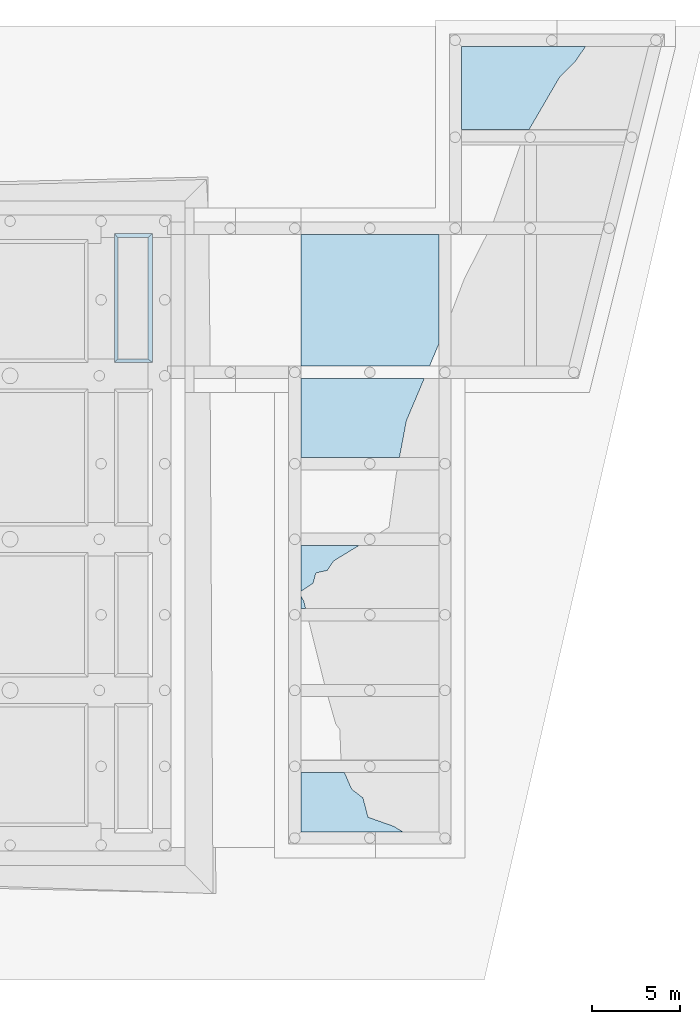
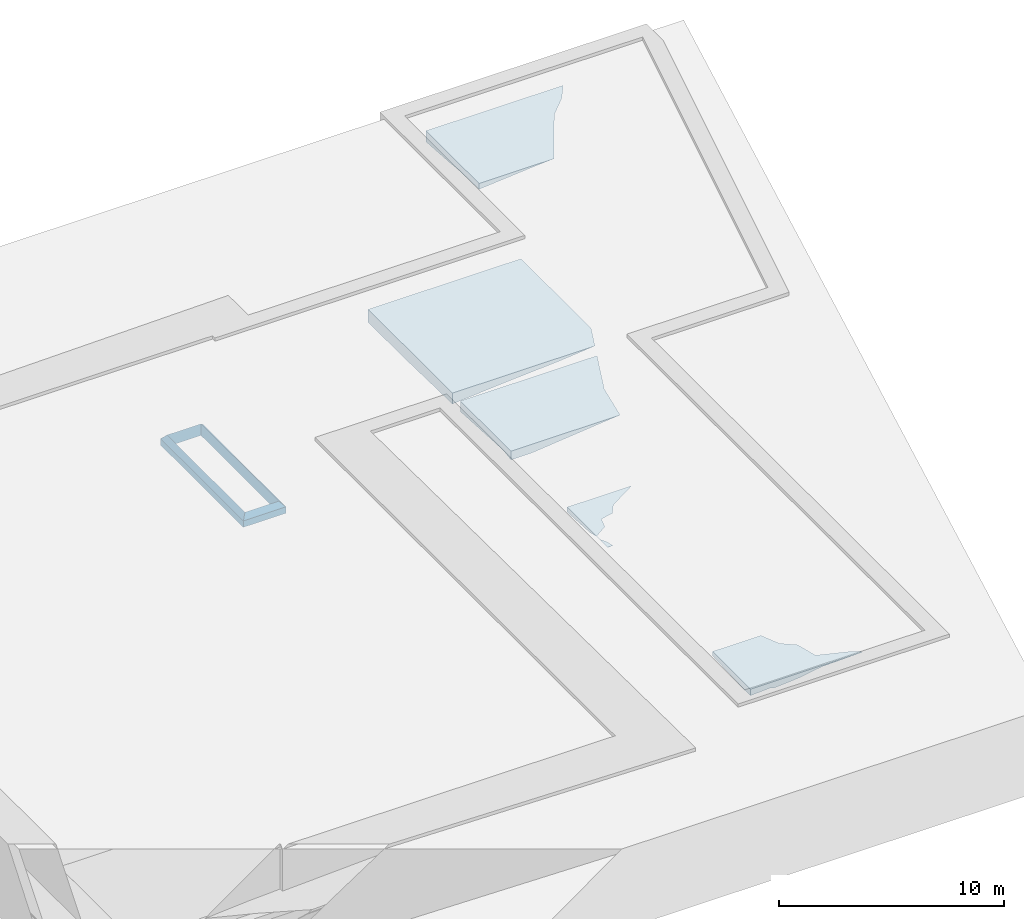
# One storey, part 6 of 7: 6 slabs.
"""IFC2X3 building model written with IfcOpenShell, lengths in millimetres."""

from ifc_helpers import new_model, entity, si_unit, converted_unit, derived_unit, money_unit, direction, frame, origin_with_axes, place, context, subcontext, project, spatial, polyline, outline, extrude, boolean, faceted_brep, material, layer, layer_set, layer_usage, type_object, element, save


model = new_model("IFC2X3")

# Units and contexts
model_context = context("Model", 3, precision=0.01, world=origin_with_axes(), true_north=direction((0.0, 1.0)))
body_context = subcontext(model_context, "Body", "Model", "MODEL_VIEW")
ifc_project = project(units=[si_unit("LENGTHUNIT", "METRE", prefix="MILLI"), si_unit("AREAUNIT", "SQUARE_METRE"), si_unit("VOLUMEUNIT", "CUBIC_METRE"), converted_unit("PLANEANGLEUNIT", "DEGREE", entity("IfcPlaneAngleMeasure", 0.0174532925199), si_unit("PLANEANGLEUNIT", "RADIAN"), dimensions=[0, 0, 0, 0, 0, 0, 0]), money_unit("USD"), converted_unit("TIMEUNIT", "Year", entity("IfcTimeMeasure", 31556926.0), si_unit("TIMEUNIT", "SECOND"), dimensions=[0, 0, 1, 0, 0, 0, 0]), si_unit("MASSUNIT", "GRAM", prefix="KILO"), si_unit("THERMODYNAMICTEMPERATUREUNIT", "DEGREE_CELSIUS"), si_unit("LUMINOUSINTENSITYUNIT", "LUMEN"), si_unit("ENERGYUNIT", "JOULE", prefix="MEGA"), derived_unit("THERMALCONDUCTANCEUNIT", [(si_unit("POWERUNIT", "WATT"), 1), (si_unit("LENGTHUNIT", "METRE"), -1), (si_unit("THERMODYNAMICTEMPERATUREUNIT", "KELVIN"), -1)]), derived_unit("SPECIFICHEATCAPACITYUNIT", [(si_unit("ENERGYUNIT", "JOULE"), 1), (si_unit("MASSUNIT", "GRAM", prefix="KILO"), -1), (si_unit("THERMODYNAMICTEMPERATUREUNIT", "KELVIN"), -1)]), derived_unit("MASSDENSITYUNIT", [(si_unit("MASSUNIT", "GRAM", prefix="KILO"), 1), (si_unit("VOLUMEUNIT", "CUBIC_METRE"), -1)])], contexts=[model_context])

# Site, building, storey
site_placement = place(None, frame((9669.71692459, 4224.13032188, 0.0), z_axis=(0.0, 0.0, 1.0), x_axis=(1.0, 0.0, 0.0)))
site = spatial("IfcSite", under=ifc_project, at=site_placement, Name="Exteriér", CompositionType="ELEMENT")
building_placement = place(site_placement, origin_with_axes())
building = spatial("IfcBuilding", under=site, at=building_placement, Name="Budova", CompositionType="ELEMENT")
storey_placement = place(building_placement, frame((0.0, 0.0, -5000.0), z_axis=(0.0, 0.0, 1.0), x_axis=(1.0, 0.0, 0.0)))
storey = spatial("IfcBuildingStorey", under=building, at=storey_placement, Name="Základy", CompositionType="ELEMENT", Elevation=-5000.0)

# Slabs
ifc_material = material(Name="Hutněný násyp")
ifc_layer_1 = layer(ifc_material, 700.0, ventilated="UNKNOWN")
ifc_layer_set_1 = layer_set([ifc_layer_1], Name="Hutněný násyp 700")
ifc_layer_usage_1 = layer_usage(ifc_layer_set_1, "AXIS3", "NEGATIVE", 700.0)
slab_type_1 = type_object("IfcSlabType", Name="Hutněný násyp 700", PredefinedType="FLOOR")
slab_1_placement = place(storey_placement, frame((20554.7371319, -3560.94750072, 3790.0), z_axis=(0.0, 0.0, 1.0), x_axis=(1.0, 0.0, 0.0)))
element("IfcSlab", 1, at=slab_1_placement, inside=storey, type_object=slab_type_1, material=ifc_layer_usage_1, Name="Zásyp", PredefinedType="FLOOR", context=body_context, shape_type="CSG", body=[
    boolean("DIFFERENCE", extrude(outline(polyline([(0.0, 0.0), (7850.00000008, 0.0), (7850.00000008, 3400.0), (0.0, 3400.0), (0.0, 0.0)])), origin_with_axes(), (0.0, 0.0, 1.0), 700.0), faceted_brep([(3820.4746514, 834.324613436, 700.0), (5282.95128354, 318.040342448, 700.0), (5799.66962946, -3.99813515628e-09, 700.0), (7850.00000008, 0.0, 700.0), (7850.00000008, 3400.0, 700.0), (0.0, 3400.0, 700.0), (0.0, 3375.00000031, 700.0), (2478.88170014, 3375.00000031, 700.0), (2888.77202381, 2430.94495618, 700.0), (3532.8191082, 1934.97727786, 700.0), (3660.96996895, 0.0, 635.450321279), (4947.87077802, -3.99813515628e-09, 668.376422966), (1013.7122126, 0.0, 406.733283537), (0.0, 0.0, 348.768729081), (0.0, 0.0, 0.0), (7850.00000008, 0.0, 0.0), (2513.63443761, 0.0, 439.293305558), (1181.28174519, 0.0, 340.945370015), (7850.00000008, 3400.0, 0.0), (0.0, 3400.0, 0.0), (0.0, 3375.00000031, 459.611769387), (0.0, 654.2553224, 346.076544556), (0.0, 3117.03791397, 450.074618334), (92.9736672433, 3375.00000031, 464.899345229), (430.703672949, 3375.00000031, 479.180784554), (607.315791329, 849.438277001, 380.0)], [[[0, 1, 2, 3, 4, 5, 6, 7, 8, 9]], [[1, 0, 10, 11]], [[11, 2, 1]], [[12, 13, 14, 15, 3, 2, 11, 10, 16, 17]], [[3, 15, 18, 4]], [[4, 18, 19, 5]], [[20, 6, 5, 19, 14, 13, 21, 22]], [[7, 6, 20, 23, 24]], [[8, 7, 24, 25]], [[9, 8, 25, 17, 16]], [[0, 9, 16, 10]], [[13, 12, 25, 21]], [[15, 14, 19, 18]], [[12, 17, 25]], [[22, 21, 25, 24, 23]], [[20, 22, 23]]])),
])
ifc_layer_usage_2 = layer_usage(ifc_layer_set_1, "AXIS3", "NEGATIVE", 700.0)
slab_2_placement = place(storey_placement, frame((29704.737132, 36389.0524993, 3790.0), z_axis=(0.0, 0.0, 1.0), x_axis=(1.0, 0.0, 0.0)))
element("IfcSlab", 2, at=slab_2_placement, inside=storey, type_object=slab_type_1, material=ifc_layer_usage_2, Name="Zásyp", PredefinedType="FLOOR", context=body_context, shape_type="CSG", body=[
    boolean("DIFFERENCE", extrude(outline(polyline([(0.0, 0.0), (9449.26156188, 0.0), (10633.2202665, 4750.00091402), (0.0, 4750.00091402), (0.0, 0.0)])), origin_with_axes(), (0.0, 0.0, 1.0), 700.0), faceted_brep([(1022.70520104, 4750.00091402, 229.098920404), (5497.2128624, 4750.00091402, 563.852404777), (7048.96784384, 4750.00091402, 700.0), (10633.2202665, 4750.00091402, 700.0), (10633.2202665, 4750.00091402, 0.0), (0.0, 4750.00091402, 0.0), (0.0, 4750.00091402, 103.358543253), (5563.35480981, 2977.94022052, 700.0), (6478.91590385, 3903.09479462, 700.0), (1369.21205807, 2386.64127248, 430.0), (3844.0422252, 29.9999999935, 700.0), (0.0, 29.9999999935, 700.0), (0.0, 0.0, 700.0), (9449.26156188, 0.0, 700.0), (9449.26156188, 0.0, 0.0), (0.0, 0.0, 0.0), (0.0, 2537.35149605, 251.562408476), (0.0, 29.9999999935, 383.831446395), (0.0, 1943.24307632, 326.360136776), (2857.11200268, 29.9999999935, 630.773808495), (676.451265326, 29.9999999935, 441.614342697)], [[[0, 1, 2, 3, 4, 5, 6]], [[7, 8, 1, 0, 9]], [[8, 2, 1]], [[10, 11, 12, 13, 3, 2, 8, 7]], [[13, 14, 4, 3]], [[14, 15, 5, 4]], [[16, 6, 5, 15, 12, 11, 17, 18]], [[0, 6, 16, 9]], [[10, 7, 9, 19]], [[11, 10, 19, 20, 17]], [[12, 15, 14, 13]], [[18, 17, 20, 9]], [[16, 18, 9]], [[19, 9, 20]]])),
])
ifc_layer_usage_3 = layer_usage(ifc_layer_set_1, "AXIS3", "NEGATIVE", 700.0)
slab_3_placement = place(storey_placement, frame((20554.7371319, 9139.05249929, 3790.0), z_axis=(0.0, 0.0, 1.0), x_axis=(1.0, 0.0, 0.0)))
element("IfcSlab", 3, at=slab_3_placement, inside=storey, type_object=slab_type_1, material=ifc_layer_usage_3, Name="Zásyp", PredefinedType="FLOOR", context=body_context, shape_type="CSG", body=[
    boolean("DIFFERENCE", extrude(outline(polyline([(0.0, 0.0), (7850.00000008, 0.0), (7850.00000008, 3599.99999997), (0.0, 3599.99999997), (0.0, 0.0)])), origin_with_axes(), (0.0, 0.0, 1.0), 700.0), faceted_brep([(991.876729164, 3599.99999997, 540.480875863), (1453.12763406, 3599.99999997, 590.713404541), (3314.94247378, 3599.99999997, 700.0), (7850.00000008, 3599.99999997, 700.0), (7850.00000008, 3599.99999997, 0.0), (0.0, 3599.99999997, 0.0), (0.0, 3599.99999997, 424.215177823), (491.113909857, 3599.99999997, 529.747553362), (1497.42063607, 2172.04348428, 700.0), (1864.11213774, 2717.92916152, 700.0), (166.184692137, 430.077486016, 700.0), (273.691362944, 0.0, 700.0), (7850.00000008, 0.0, 700.0), (853.985961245, 2039.59125118, 700.0), (689.810747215, 1443.02972156, 700.0), (16.0363090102, 993.008400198, 700.0), (21.2447423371, 677.668680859, 700.0), (7850.00000008, 0.0, 0.0), (0.0, 0.0, 0.0), (0.0, 1542.10161622, 545.91214435), (0.0, 0.0, 684.380879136), (0.0, 349.953263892, 689.373105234), (0.0, 662.083437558, 698.485512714), (0.0, 986.428892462, 698.862841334)], [[[0, 1, 2, 3, 4, 5, 6, 7]], [[8, 9, 1, 0]], [[9, 2, 1]], [[10, 11, 12, 3, 2, 9, 8, 13, 14, 15, 16]], [[12, 17, 4, 3]], [[17, 18, 5, 4]], [[19, 6, 5, 18, 20, 21, 22, 23]], [[14, 13, 7, 6, 19]], [[13, 8, 0, 7]], [[20, 11, 10, 21]], [[11, 20, 18, 17, 12]], [[15, 14, 19, 23]], [[16, 15, 23, 22]], [[10, 16, 22, 21]]])),
])
ifc_layer_usage_4 = layer_usage(ifc_layer_set_1, "AXIS3", "NEGATIVE", 700.0)
slab_4_placement = place(storey_placement, frame((20554.7371319, 17739.0524993, 3790.0), z_axis=(0.0, 0.0, 1.0), x_axis=(1.0, 0.0, 0.0)))
element("IfcSlab", 4, at=slab_4_placement, inside=storey, type_object=slab_type_1, material=ifc_layer_usage_4, Name="Zásyp", PredefinedType="FLOOR", context=body_context, shape_type="CSG", body=[
    boolean("DIFFERENCE", extrude(outline(polyline([(0.0, 0.0), (7850.00000008, 0.0), (7850.00000008, 4500.01562606), (0.0, 4500.01562606), (0.0, 0.0)])), origin_with_axes(), (0.0, 0.0, 1.0), 700.0), faceted_brep([(2912.91099961, 4500.01562606, 363.219696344), (5253.73301778, 4500.01562606, 521.933339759), (7019.82089251, 4500.01562606, 700.0), (7850.00000008, 4500.01562606, 700.0), (7850.00000008, 4500.01562606, 0.0), (0.0, 4500.01562606, 0.0), (0.0, 4500.01562606, 128.122383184), (4270.06442391, 1746.40141274, 540.0), (6002.77137269, 2091.66756358, 700.000002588), (5608.08231526, 0.0, 700.0), (7850.00000008, 0.0, 700.0), (7850.00000008, 0.0, 0.0), (0.0, 0.0, 0.0), (0.0, 4448.238478, 129.386836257), (0.0, 0.0, 227.535685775), (0.0, 671.082519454, 338.277676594), (5013.49876055, 0.0, 642.950441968), (1117.41905225, 0.0, 233.887678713)], [[[0, 1, 2, 3, 4, 5, 6]], [[1, 0, 7]], [[8, 2, 1, 7]], [[8, 9, 10, 3, 2]], [[10, 11, 4, 3]], [[11, 12, 5, 4]], [[13, 6, 5, 12, 14, 15]], [[0, 6, 13, 7]], [[9, 8, 7, 16]], [[17, 14, 12, 11, 10, 9, 16]], [[14, 17, 7, 15]], [[13, 15, 7]], [[17, 16, 7]]])),
])
ifc_layer_usage_5 = layer_usage(ifc_layer_set_1, "AXIS3", "NEGATIVE", 700.0)
slab_5_placement = place(storey_placement, frame((20554.7371319, 22939.0681254, 3790.0), z_axis=(0.0, 0.0, 1.0), x_axis=(1.0, 0.0, 0.0)))
element("IfcSlab", 5, at=slab_5_placement, inside=storey, type_object=slab_type_1, material=ifc_layer_usage_5, Name="Zásyp", PredefinedType="FLOOR", context=body_context, shape_type="CSG", body=[
    boolean("DIFFERENCE", extrude(outline(polyline([(0.0, 0.0), (7850.00000008, 0.0), (7850.00000008, 7499.98437388), (0.0, 7499.98437388), (0.0, 0.0)])), origin_with_axes(), (0.0, 0.0, 1.0), 700.0), faceted_brep([(5866.30985601, 7499.98437388, 267.749546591), (6649.12187311, 7499.98437388, 349.836197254), (7850.00000008, 7499.98437388, 452.415968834), (7850.00000008, 7499.98437388, 0.0), (2063.74241595, 7499.98437388, 0.0), (7536.86165395, 5691.23328994, 480.0), (7850.00000008, 6756.4707546, 474.750141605), (7850.00000008, 4202.50855904, 574.960399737), (7850.00000008, 1265.84350693, 700.0), (7850.00000008, 0.0, 700.0), (7850.00000008, 0.0, 0.0), (7850.00000008, 5923.76030302, 500.087635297), (7850.00000008, 5561.91368071, 519.141811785), (262.377383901, 5075.38798053, 0.0), (0.0, 0.0, 0.0), (0.0, 4546.38814657, 0.0), (28.5263787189, 4640.66445828, 0.0), (18.2739288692, 4745.13102347, 0.0), (72.968501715, 4886.7908759, 0.0), (121.981030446, 4923.90685345, 0.0), (158.123650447, 5059.90960551, 0.0), (201.221359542, 4801.91820913, 10.0000023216), (5503.79274379, 0.0, 517.340589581), (7315.43210126, 0.0, 700.0), (2567.90718883, 0.0, 318.280135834), (0.0, 8.40114466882e-05, 111.027630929)], [[[0, 1, 2, 3, 4]], [[1, 0, 5]], [[6, 2, 1, 5]], [[7, 8, 9, 10, 3, 2, 6, 11, 12]], [[13, 4, 3, 10, 14, 15, 16, 17, 18, 19, 20]], [[0, 4, 13, 21, 5]], [[11, 6, 5]], [[8, 7, 5, 22, 23]], [[8, 23, 9]], [[24, 25, 14, 10, 9, 23, 22]], [[12, 11, 5]], [[7, 12, 5]], [[25, 15, 14]], [[25, 24, 21, 16, 15]], [[17, 16, 21]], [[18, 17, 21]], [[19, 18, 21]], [[20, 19, 21]], [[13, 20, 21]], [[24, 22, 5, 21]]])),
])
ifc_layer_2 = layer(ifc_material, 728.0, ventilated="UNKNOWN")
ifc_layer_set_2 = layer_set([ifc_layer_2], Name="Hutněný násyp 728")
ifc_layer_usage_6 = layer_usage(ifc_layer_set_2, "AXIS3", "NEGATIVE", 728.0)
slab_type_2 = type_object("IfcSlabType", Name="Hutněný násyp 728", PredefinedType="FLOOR")
slab_6_placement = place(storey_placement, frame((9934.73715279, 23339.0522444, 800.0), z_axis=(0.0, 0.0, 1.0), x_axis=(1.0, 0.0, 0.0)))
element("IfcSlab", 6, at=slab_6_placement, inside=storey, type_object=slab_type_2, material=ifc_layer_usage_6, Name="Zásyp", PredefinedType="FLOOR", context=body_context, shape_type="CSG", body=[
    boolean("DIFFERENCE", extrude(outline(polyline([(0.0, -200.000041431), (2180.00022129, -200.000041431), (2180.00022129, 7160.0002549), (0.0, 7160.0002549), (0.0, -200.000041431)]), holes=[polyline([(1930.00030659, 0.0), (199.999931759, 0.0), (199.999931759, 6910.00023053), (1930.00030659, 6910.00023053), (1930.00030659, 0.0)])]), origin_with_axes(), (0.0, 0.0, 1.0), 728.0), faceted_brep([(199.999969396, 6910.000255, 638.126304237), (1930.00028705, 6910.00025452, 638.126304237), (1930.00026909, 6910.00025495, 640.667370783), (1930.00030659, 6910.00023053, 728.0), (199.999931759, 6910.00023053, 728.0), (199.999931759, 7160.00025453, 360.126304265), (2180.00026935, 7160.00025462, 360.126304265), (-3.50402462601e-05, 7160.00025453, 360.126304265), (2180.00026946, 7160.00025529, 362.667370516), (1930.00026953, -4.13449967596e-05, 640.667352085), (1930.00030659, 0.0, 728.0), (199.999931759, 7160.0002549, 728.0), (0.0, 7160.0002549, 728.0), (0.0, 6910.00023053, 728.0), (0.0, 0.0, 728.0), (0.0, -200.000041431, 728.0), (1930.00030659, -200.000041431, 728.0), (2180.00022129, -200.000041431, 728.0), (2180.00022129, 0.0, 728.0), (2180.00022129, 6910.00023053, 728.0), (2180.00022129, 7160.0002549, 728.0), (199.999931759, 0.0, 728.0), (199.999972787, 6910.0002549, 628.0), (199.999982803, -4.12036804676e-05, 628.022147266), (-3.50402462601e-05, 7160.00025453, 349.999999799), (2180.00026886, 6910.00023053, 362.667370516), (2180.00025249, 0.0, 362.667370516), (2180.00025202, -200.000041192, 362.667370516), (1930.00026929, -4.12037053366e-05, 628.022147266), (-3.44404806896e-05, 6910.00023053, 349.999999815), (-1.786296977e-05, 0.0, 350.000000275), (-1.73831580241e-05, -200.000041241, 350.000000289), (1930.00030659, -200.000041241, 350.000000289), (2180.00025253, -200.000041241, 350.000000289)], [[[0, 1, 2, 3, 4]], [[5, 6, 1, 0, 7]], [[6, 8, 2, 1]], [[2, 9, 10, 3]], [[11, 12, 13, 14, 15, 16, 17, 18, 19, 20], [21, 4, 3, 10]], [[22, 0, 4, 21, 23]], [[6, 5, 11, 20, 8]], [[0, 22, 24, 7]], [[5, 7, 12, 11]], [[8, 25, 26, 27, 9, 2]], [[28, 23, 21, 10, 9]], [[24, 29, 13, 12, 7]], [[29, 30, 14, 13]], [[30, 31, 15, 14]], [[31, 32, 16, 15]], [[33, 27, 17, 16, 32]], [[27, 26, 18, 17]], [[26, 25, 19, 18]], [[25, 8, 20, 19]], [[29, 24, 22, 23, 31, 30]], [[27, 33, 28, 9]], [[33, 32, 31, 23, 28]]])),
])

save(model, "model.ifc")
